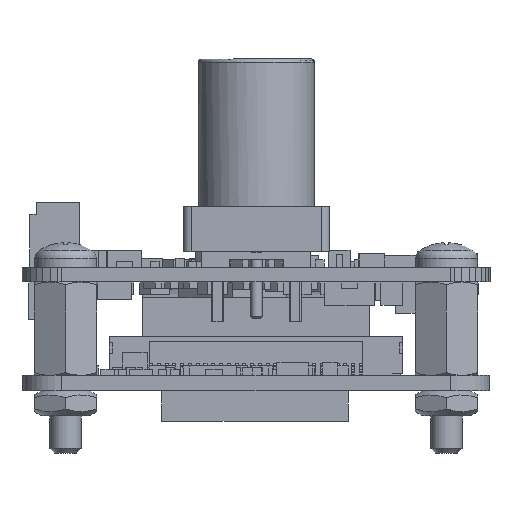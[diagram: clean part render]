
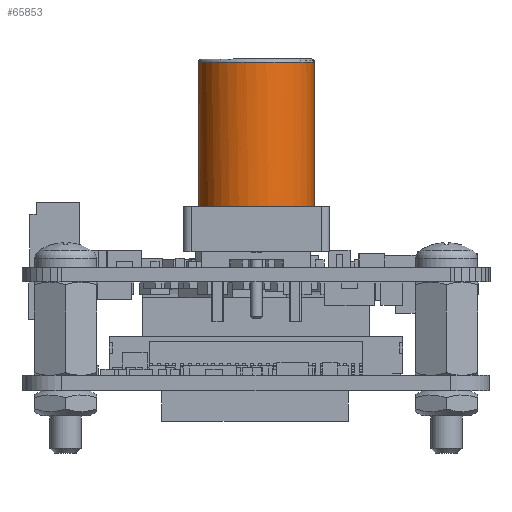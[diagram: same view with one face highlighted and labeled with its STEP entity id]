
A CAD part, front view. The second image highlights one B-rep face of the part: STEP entity #65853.
In plain terms, the highlighted cylindrical face has radius 3.725 mm (diameter 7.45 mm), a full revolution.
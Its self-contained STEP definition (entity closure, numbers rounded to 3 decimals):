
#10632=LINE('',#102216,#18705);
#10633=LINE('',#102219,#18706);
#18705=VECTOR('',#84396,1.);
#18706=VECTOR('',#84399,1.);
#22641=CYLINDRICAL_SURFACE('',#69783,3.725);
#23096=FACE_BOUND('',#29655,.T.);
#26019=FACE_OUTER_BOUND('',#29654,.T.);
#29654=EDGE_LOOP('',(#60937,#60938,#60939,#60940));
#29655=EDGE_LOOP('',(#60941));
#30531=CIRCLE('',#69784,3.725);
#30532=CIRCLE('',#69785,3.725);
#30533=CIRCLE('',#69786,3.725);
#35835=VERTEX_POINT('',#102212);
#35836=VERTEX_POINT('',#102213);
#35837=VERTEX_POINT('',#102215);
#35838=VERTEX_POINT('',#102217);
#35839=VERTEX_POINT('',#102220);
#44310=EDGE_CURVE('',#35835,#35836,#30531,.T.);
#44311=EDGE_CURVE('',#35836,#35837,#10632,.T.);
#44312=EDGE_CURVE('',#35837,#35838,#30532,.T.);
#44313=EDGE_CURVE('',#35838,#35835,#10633,.T.);
#44314=EDGE_CURVE('',#35839,#35839,#30533,.T.);
#60937=ORIENTED_EDGE('',*,*,#44310,.T.);
#60938=ORIENTED_EDGE('',*,*,#44311,.T.);
#60939=ORIENTED_EDGE('',*,*,#44312,.T.);
#60940=ORIENTED_EDGE('',*,*,#44313,.T.);
#60941=ORIENTED_EDGE('',*,*,#44314,.T.);
#65853=ADVANCED_FACE('',(#26019,#23096),#22641,.T.);
#69783=AXIS2_PLACEMENT_3D('',#102211,#84392,#84393);
#69784=AXIS2_PLACEMENT_3D('',#102214,#84394,#84395);
#69785=AXIS2_PLACEMENT_3D('',#102218,#84397,#84398);
#69786=AXIS2_PLACEMENT_3D('',#102221,#84400,#84401);
#84392=DIRECTION('center_axis',(0.,0.,1.));
#84393=DIRECTION('ref_axis',(1.,0.,0.));
#84394=DIRECTION('center_axis',(0.,0.,1.));
#84395=DIRECTION('ref_axis',(1.,0.,0.));
#84396=DIRECTION('',(0.,0.,1.));
#84397=DIRECTION('center_axis',(0.,0.,1.));
#84398=DIRECTION('ref_axis',(1.,0.,0.));
#84399=DIRECTION('',(0.,0.,-1.));
#84400=DIRECTION('center_axis',(0.,0.,-1.));
#84401=DIRECTION('ref_axis',(1.,0.,0.));
#102211=CARTESIAN_POINT('Origin',(15.024,5.75,3.913));
#102212=CARTESIAN_POINT('',(14.049,9.345,3.913));
#102213=CARTESIAN_POINT('',(15.999,9.345,3.914));
#102214=CARTESIAN_POINT('Origin',(15.024,5.75,3.913));
#102215=CARTESIAN_POINT('',(15.997,9.345,8.864));
#102216=CARTESIAN_POINT('',(15.999,9.345,3.914));
#102217=CARTESIAN_POINT('',(14.047,9.345,8.863));
#102218=CARTESIAN_POINT('Origin',(15.022,5.75,8.863));
#102219=CARTESIAN_POINT('',(14.049,9.345,3.913));
#102220=CARTESIAN_POINT('',(18.746,5.75,13.215));
#102221=CARTESIAN_POINT('Origin',(15.021,5.75,13.213));
